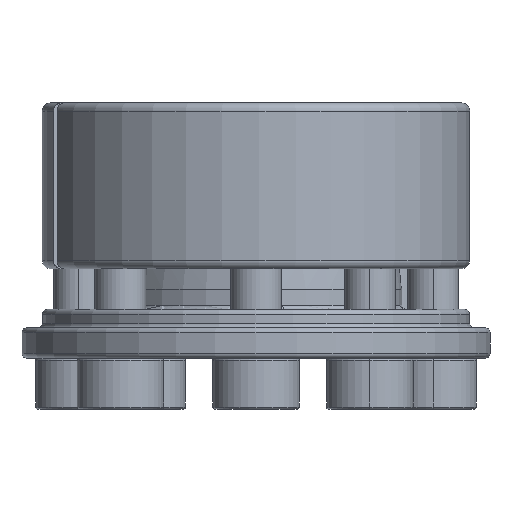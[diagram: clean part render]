
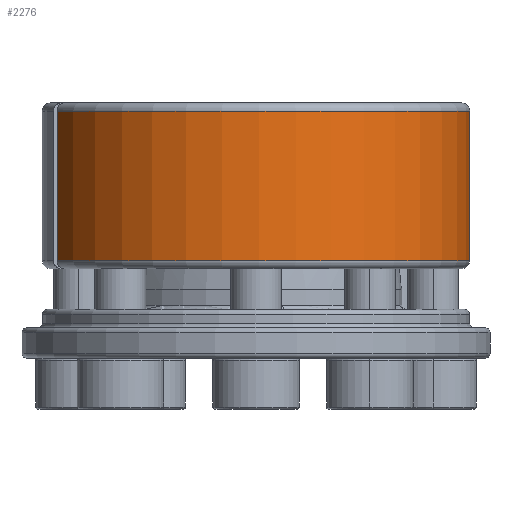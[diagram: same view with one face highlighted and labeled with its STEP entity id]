
A CAD part, front view. The second image highlights one B-rep face of the part: STEP entity #2276.
In plain terms, the highlighted cylindrical face has radius 21 mm (diameter 42 mm), a partial arc.
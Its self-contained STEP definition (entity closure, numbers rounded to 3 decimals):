
#134 = VERTEX_POINT ( 'NONE', #7837 ) ;
#147 = VERTEX_POINT ( 'NONE', #7851 ) ;
#149 = VERTEX_POINT ( 'NONE', #7827 ) ;
#2276 = ADVANCED_FACE ( 'NONE', ( #3036 ), #3041, .T. ) ;
#3036 = FACE_OUTER_BOUND ( 'NONE', #10936, .T. ) ;
#3041 = CYLINDRICAL_SURFACE ( 'NONE', #3162, 21. ) ;
#3162 = AXIS2_PLACEMENT_3D ( 'NONE', #9248, #9251, #9254 ) ;
#4326 = AXIS2_PLACEMENT_3D ( 'NONE', #6034, #6035, #6036 ) ;
#4327 = AXIS2_PLACEMENT_3D ( 'NONE', #6039, #6040, #6041 ) ;
#6018 = CARTESIAN_POINT ( 'NONE',  ( -19.557, -7.65, 1.5 ) ) ;
#6025 = DIRECTION ( 'NONE',  ( 0., 0., -1. ) ) ;
#6032 = CARTESIAN_POINT ( 'NONE',  ( 21., 0., 1.5 ) ) ;
#6033 = DIRECTION ( 'NONE',  ( 0., 0., 1. ) ) ;
#6034 = CARTESIAN_POINT ( 'NONE',  ( 0., 0., -0.8 ) ) ;
#6035 = DIRECTION ( 'NONE',  ( 0., 0., 1. ) ) ;
#6036 = DIRECTION ( 'NONE',  ( 1., 0., 0. ) ) ;
#6039 = CARTESIAN_POINT ( 'NONE',  ( 0., 0., -15.5 ) ) ;
#6040 = DIRECTION ( 'NONE',  ( 0., 0., 1. ) ) ;
#6041 = DIRECTION ( 'NONE',  ( 1., 0., 0. ) ) ;
#6405 = CARTESIAN_POINT ( 'NONE',  ( -19.557, -7.65, -0.8 ) ) ;
#6465 = CIRCLE ( 'NONE', #4326, 21. ) ;
#6466 = LINE ( 'NONE', #6018, #6468 ) ;
#6468 = VECTOR ( 'NONE', #6025, 1000. ) ;
#6469 = CIRCLE ( 'NONE', #4327, 21. ) ;
#6470 = LINE ( 'NONE', #6032, #6472 ) ;
#6472 = VECTOR ( 'NONE', #6033, 1000. ) ;
#7827 = CARTESIAN_POINT ( 'NONE',  ( 21., 0., -15.5 ) ) ;
#7837 = CARTESIAN_POINT ( 'NONE',  ( 21., 0., -0.8 ) ) ;
#7851 = CARTESIAN_POINT ( 'NONE',  ( -19.557, -7.65, -15.5 ) ) ;
#9248 = CARTESIAN_POINT ( 'NONE',  ( 0., 0., 1.5 ) ) ;
#9251 = DIRECTION ( 'NONE',  ( 0., 0., 1. ) ) ;
#9254 = DIRECTION ( 'NONE',  ( 1., 0., 0. ) ) ;
#10303 = EDGE_CURVE ( 'NONE', #11106, #147, #6466, .T. ) ;
#10304 = EDGE_CURVE ( 'NONE', #11106, #134, #6465, .T. ) ;
#10305 = EDGE_CURVE ( 'NONE', #147, #149, #6469, .T. ) ;
#10306 = EDGE_CURVE ( 'NONE', #149, #134, #6470, .T. ) ;
#10413 = ORIENTED_EDGE ( 'NONE', *, *, #10305, .T. ) ;
#10414 = ORIENTED_EDGE ( 'NONE', *, *, #10306, .T. ) ;
#10415 = ORIENTED_EDGE ( 'NONE', *, *, #10304, .F. ) ;
#10417 = ORIENTED_EDGE ( 'NONE', *, *, #10303, .T. ) ;
#10936 = EDGE_LOOP ( 'NONE', ( #10413, #10414, #10415, #10417 ) ) ;
#11106 = VERTEX_POINT ( 'NONE', #6405 ) ;
